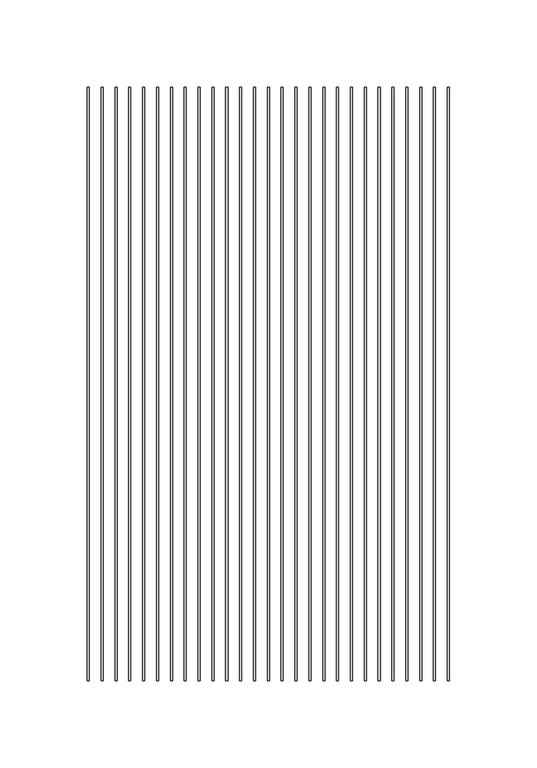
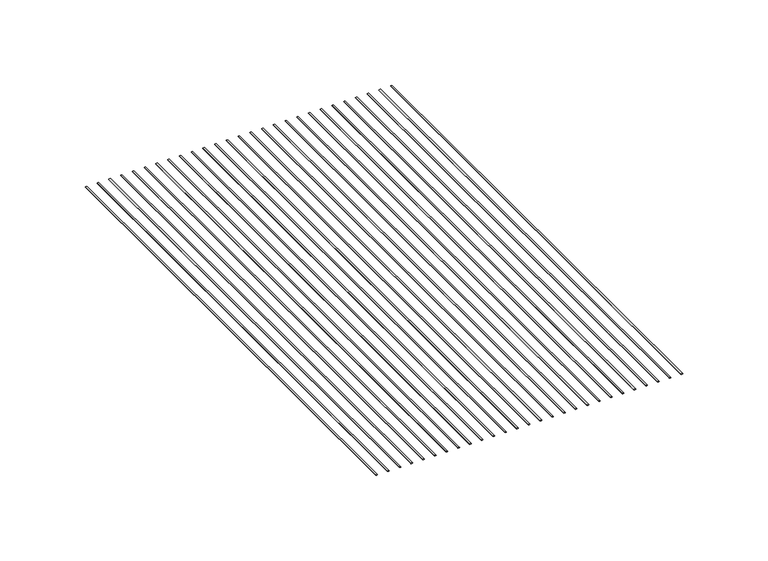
"""IFC4 building model written with IfcOpenShell, lengths in millimetres: proxy geometry, CRAi Generic Model Mesh Piece Face Based : Wider Mesh."""

from ifc_helpers import new_model, si_unit, point, frame, origin, place, context, project, spatial, ellipse_curve, trimmed, source, transform, mapped, element, save
from ifc_brep_helpers import plane_surface, extruded_surface, advanced_brep


def generic_models_7cb75a2d(model_context):
    return source(origin(), model_context, "Body", "AdvancedBrep", [
        advanced_brep(
        [(-228.4015625, -169.8625, -2.5796875), (-227.2109375, -169.8625, -2.5796875), (-228.4015625, 169.8625, -2.5796875), (-227.2109375, 169.8625, -2.5796875)],
        [
            (0, 1, ellipse_curve(frame((-227.80625, -169.8625, -2.5796875), z_axis=(0.0, -1.0, 0.0), x_axis=(1.0, 0.0, 0.0)), 0.5953125, 0.1984375)),
            (1, 0, ellipse_curve(frame((-227.80625, -169.8625, -2.5796875), z_axis=(0.0, -1.0, 0.0), x_axis=(1.0, 0.0, 0.0)), 0.5953125, 0.1984375)),
            (2, 3, ellipse_curve(frame((-227.80625, 169.8625, -2.5796875), z_axis=(0.0, 1.0, 0.0), x_axis=(1.0, 0.0, 0.0)), 0.5953125, 0.1984375)),
            (3, 2, ellipse_curve(frame((-227.80625, 169.8625, -2.5796875), z_axis=(0.0, 1.0, 0.0), x_axis=(1.0, 0.0, 0.0)), 0.5953125, 0.1984375)),
            (0, 2),
            (3, 1),
        ],
        [
            plane_surface(frame((-227.80625, -169.8625, -2.5796875), z_axis=(0.0, -1.0, 0.0), x_axis=(0.0, 0.0, 1.0))),
            plane_surface(frame((-227.80625, 169.8625, -2.5796875), z_axis=(0.0, 1.0, 0.0), x_axis=(0.0, 0.0, 1.0))),
            extruded_surface(trimmed(ellipse_curve(frame((-227.80625, 169.8625, -2.5796875), z_axis=(0.0, -1.0, 0.0), x_axis=(1.0, 0.0, 0.0)), 0.5953125, 0.1984375), [point((-228.4015625, 169.8625, -2.5796875))], [point((-227.2109375, 169.8625, -2.5796875))], True, "CARTESIAN"), (0.0, -339.725, 0.0), 339.725),
            extruded_surface(trimmed(ellipse_curve(frame((-227.80625, 169.8625, -2.5796875), z_axis=(0.0, -1.0, 0.0), x_axis=(1.0, 0.0, 0.0)), 0.5953125, 0.1984375), [point((-227.2109375, 169.8625, -2.5796875))], [point((-228.4015625, 169.8625, -2.5796875))], True, "CARTESIAN"), (0.0, -339.725, 0.0), 339.725),
        ],
        [
            (0, [[1, 2]]),
            (1, [[3, 4]]),
            (2, [[-1, 5, -4, 6]]),
            (3, [[-2, -6, -3, -5]]),
        ],
    ),
        advanced_brep(
        [(-220.4640625, -169.8625, -2.5796875), (-219.2734375, -169.8625, -2.5796875), (-220.4640625, 169.8625, -2.5796875), (-219.2734375, 169.8625, -2.5796875)],
        [
            (0, 1, ellipse_curve(frame((-219.86875, -169.8625, -2.5796875), z_axis=(0.0, -1.0, 0.0), x_axis=(1.0, 0.0, 0.0)), 0.5953125, 0.1984375)),
            (1, 0, ellipse_curve(frame((-219.86875, -169.8625, -2.5796875), z_axis=(0.0, -1.0, 0.0), x_axis=(1.0, 0.0, 0.0)), 0.5953125, 0.1984375)),
            (2, 3, ellipse_curve(frame((-219.86875, 169.8625, -2.5796875), z_axis=(0.0, 1.0, 0.0), x_axis=(1.0, 0.0, 0.0)), 0.5953125, 0.1984375)),
            (3, 2, ellipse_curve(frame((-219.86875, 169.8625, -2.5796875), z_axis=(0.0, 1.0, 0.0), x_axis=(1.0, 0.0, 0.0)), 0.5953125, 0.1984375)),
            (0, 2),
            (3, 1),
        ],
        [
            plane_surface(frame((-219.86875, -169.8625, -2.5796875), z_axis=(0.0, -1.0, 0.0), x_axis=(0.0, 0.0, 1.0))),
            plane_surface(frame((-219.86875, 169.8625, -2.5796875), z_axis=(0.0, 1.0, 0.0), x_axis=(0.0, 0.0, 1.0))),
            extruded_surface(trimmed(ellipse_curve(frame((-219.86875, 169.8625, -2.5796875), z_axis=(0.0, -1.0, 0.0), x_axis=(1.0, 0.0, 0.0)), 0.5953125, 0.1984375), [point((-220.4640625, 169.8625, -2.5796875))], [point((-219.2734375, 169.8625, -2.5796875))], True, "CARTESIAN"), (0.0, -339.725, 0.0), 339.725),
            extruded_surface(trimmed(ellipse_curve(frame((-219.86875, 169.8625, -2.5796875), z_axis=(0.0, -1.0, 0.0), x_axis=(1.0, 0.0, 0.0)), 0.5953125, 0.1984375), [point((-219.2734375, 169.8625, -2.5796875))], [point((-220.4640625, 169.8625, -2.5796875))], True, "CARTESIAN"), (0.0, -339.725, 0.0), 339.725),
        ],
        [
            (0, [[1, 2]]),
            (1, [[3, 4]]),
            (2, [[-1, 5, -4, 6]]),
            (3, [[-2, -6, -3, -5]]),
        ],
    ),
        advanced_brep(
        [(-212.5265625, -169.8625, -2.5796875), (-211.3359375, -169.8625, -2.5796875), (-212.5265625, 169.8625, -2.5796875), (-211.3359375, 169.8625, -2.5796875)],
        [
            (0, 1, ellipse_curve(frame((-211.93125, -169.8625, -2.5796875), z_axis=(0.0, -1.0, 0.0), x_axis=(1.0, 0.0, 0.0)), 0.5953125, 0.1984375)),
            (1, 0, ellipse_curve(frame((-211.93125, -169.8625, -2.5796875), z_axis=(0.0, -1.0, 0.0), x_axis=(1.0, 0.0, 0.0)), 0.5953125, 0.1984375)),
            (2, 3, ellipse_curve(frame((-211.93125, 169.8625, -2.5796875), z_axis=(0.0, 1.0, 0.0), x_axis=(1.0, 0.0, 0.0)), 0.5953125, 0.1984375)),
            (3, 2, ellipse_curve(frame((-211.93125, 169.8625, -2.5796875), z_axis=(0.0, 1.0, 0.0), x_axis=(1.0, 0.0, 0.0)), 0.5953125, 0.1984375)),
            (0, 2),
            (3, 1),
        ],
        [
            plane_surface(frame((-211.93125, -169.8625, -2.5796875), z_axis=(0.0, -1.0, 0.0), x_axis=(0.0, 0.0, 1.0))),
            plane_surface(frame((-211.93125, 169.8625, -2.5796875), z_axis=(0.0, 1.0, 0.0), x_axis=(0.0, 0.0, 1.0))),
            extruded_surface(trimmed(ellipse_curve(frame((-211.93125, 169.8625, -2.5796875), z_axis=(0.0, -1.0, 0.0), x_axis=(1.0, 0.0, 0.0)), 0.5953125, 0.1984375), [point((-212.5265625, 169.8625, -2.5796875))], [point((-211.3359375, 169.8625, -2.5796875))], True, "CARTESIAN"), (0.0, -339.725, 0.0), 339.725),
            extruded_surface(trimmed(ellipse_curve(frame((-211.93125, 169.8625, -2.5796875), z_axis=(0.0, -1.0, 0.0), x_axis=(1.0, 0.0, 0.0)), 0.5953125, 0.1984375), [point((-211.3359375, 169.8625, -2.5796875))], [point((-212.5265625, 169.8625, -2.5796875))], True, "CARTESIAN"), (0.0, -339.725, 0.0), 339.725),
        ],
        [
            (0, [[1, 2]]),
            (1, [[3, 4]]),
            (2, [[-1, 5, -4, 6]]),
            (3, [[-2, -6, -3, -5]]),
        ],
    ),
        advanced_brep(
        [(-204.5890625, -169.8625, -2.5796875), (-203.3984375, -169.8625, -2.5796875), (-204.5890625, 169.8625, -2.5796875), (-203.3984375, 169.8625, -2.5796875)],
        [
            (0, 1, ellipse_curve(frame((-203.99375, -169.8625, -2.5796875), z_axis=(0.0, -1.0, 0.0), x_axis=(1.0, 0.0, 0.0)), 0.5953125, 0.1984375)),
            (1, 0, ellipse_curve(frame((-203.99375, -169.8625, -2.5796875), z_axis=(0.0, -1.0, 0.0), x_axis=(1.0, 0.0, 0.0)), 0.5953125, 0.1984375)),
            (2, 3, ellipse_curve(frame((-203.99375, 169.8625, -2.5796875), z_axis=(0.0, 1.0, 0.0), x_axis=(1.0, 0.0, 0.0)), 0.5953125, 0.1984375)),
            (3, 2, ellipse_curve(frame((-203.99375, 169.8625, -2.5796875), z_axis=(0.0, 1.0, 0.0), x_axis=(1.0, 0.0, 0.0)), 0.5953125, 0.1984375)),
            (0, 2),
            (3, 1),
        ],
        [
            plane_surface(frame((-203.99375, -169.8625, -2.5796875), z_axis=(0.0, -1.0, 0.0), x_axis=(0.0, 0.0, 1.0))),
            plane_surface(frame((-203.99375, 169.8625, -2.5796875), z_axis=(0.0, 1.0, 0.0), x_axis=(0.0, 0.0, 1.0))),
            extruded_surface(trimmed(ellipse_curve(frame((-203.99375, 169.8625, -2.5796875), z_axis=(0.0, -1.0, 0.0), x_axis=(1.0, 0.0, 0.0)), 0.5953125, 0.1984375), [point((-204.5890625, 169.8625, -2.5796875))], [point((-203.3984375, 169.8625, -2.5796875))], True, "CARTESIAN"), (0.0, -339.725, 0.0), 339.725),
            extruded_surface(trimmed(ellipse_curve(frame((-203.99375, 169.8625, -2.5796875), z_axis=(0.0, -1.0, 0.0), x_axis=(1.0, 0.0, 0.0)), 0.5953125, 0.1984375), [point((-203.3984375, 169.8625, -2.5796875))], [point((-204.5890625, 169.8625, -2.5796875))], True, "CARTESIAN"), (0.0, -339.725, 0.0), 339.725),
        ],
        [
            (0, [[1, 2]]),
            (1, [[3, 4]]),
            (2, [[-1, 5, -4, 6]]),
            (3, [[-2, -6, -3, -5]]),
        ],
    ),
        advanced_brep(
        [(-196.6515625, -169.8625, -2.5796875), (-195.4609375, -169.8625, -2.5796875), (-196.6515625, 169.8625, -2.5796875), (-195.4609375, 169.8625, -2.5796875)],
        [
            (0, 1, ellipse_curve(frame((-196.05625, -169.8625, -2.5796875), z_axis=(0.0, -1.0, 0.0), x_axis=(1.0, 0.0, 0.0)), 0.5953125, 0.1984375)),
            (1, 0, ellipse_curve(frame((-196.05625, -169.8625, -2.5796875), z_axis=(0.0, -1.0, 0.0), x_axis=(1.0, 0.0, 0.0)), 0.5953125, 0.1984375)),
            (2, 3, ellipse_curve(frame((-196.05625, 169.8625, -2.5796875), z_axis=(0.0, 1.0, 0.0), x_axis=(1.0, 0.0, 0.0)), 0.5953125, 0.1984375)),
            (3, 2, ellipse_curve(frame((-196.05625, 169.8625, -2.5796875), z_axis=(0.0, 1.0, 0.0), x_axis=(1.0, 0.0, 0.0)), 0.5953125, 0.1984375)),
            (0, 2),
            (3, 1),
        ],
        [
            plane_surface(frame((-196.05625, -169.8625, -2.5796875), z_axis=(0.0, -1.0, 0.0), x_axis=(0.0, 0.0, 1.0))),
            plane_surface(frame((-196.05625, 169.8625, -2.5796875), z_axis=(0.0, 1.0, 0.0), x_axis=(0.0, 0.0, 1.0))),
            extruded_surface(trimmed(ellipse_curve(frame((-196.05625, 169.8625, -2.5796875), z_axis=(0.0, -1.0, 0.0), x_axis=(1.0, 0.0, 0.0)), 0.5953125, 0.1984375), [point((-196.6515625, 169.8625, -2.5796875))], [point((-195.4609375, 169.8625, -2.5796875))], True, "CARTESIAN"), (0.0, -339.725, 0.0), 339.725),
            extruded_surface(trimmed(ellipse_curve(frame((-196.05625, 169.8625, -2.5796875), z_axis=(0.0, -1.0, 0.0), x_axis=(1.0, 0.0, 0.0)), 0.5953125, 0.1984375), [point((-195.4609375, 169.8625, -2.5796875))], [point((-196.6515625, 169.8625, -2.5796875))], True, "CARTESIAN"), (0.0, -339.725, 0.0), 339.725),
        ],
        [
            (0, [[1, 2]]),
            (1, [[3, 4]]),
            (2, [[-1, 5, -4, 6]]),
            (3, [[-2, -6, -3, -5]]),
        ],
    ),
        advanced_brep(
        [(-188.7140625, -169.8625, -2.5796875), (-187.5234375, -169.8625, -2.5796875), (-188.7140625, 169.8625, -2.5796875), (-187.5234375, 169.8625, -2.5796875)],
        [
            (0, 1, ellipse_curve(frame((-188.11875, -169.8625, -2.5796875), z_axis=(0.0, -1.0, 0.0), x_axis=(1.0, 0.0, 0.0)), 0.5953125, 0.1984375)),
            (1, 0, ellipse_curve(frame((-188.11875, -169.8625, -2.5796875), z_axis=(0.0, -1.0, 0.0), x_axis=(1.0, 0.0, 0.0)), 0.5953125, 0.1984375)),
            (2, 3, ellipse_curve(frame((-188.11875, 169.8625, -2.5796875), z_axis=(0.0, 1.0, 0.0), x_axis=(1.0, 0.0, 0.0)), 0.5953125, 0.1984375)),
            (3, 2, ellipse_curve(frame((-188.11875, 169.8625, -2.5796875), z_axis=(0.0, 1.0, 0.0), x_axis=(1.0, 0.0, 0.0)), 0.5953125, 0.1984375)),
            (0, 2),
            (3, 1),
        ],
        [
            plane_surface(frame((-188.11875, -169.8625, -2.5796875), z_axis=(0.0, -1.0, 0.0), x_axis=(0.0, 0.0, 1.0))),
            plane_surface(frame((-188.11875, 169.8625, -2.5796875), z_axis=(0.0, 1.0, 0.0), x_axis=(0.0, 0.0, 1.0))),
            extruded_surface(trimmed(ellipse_curve(frame((-188.11875, 169.8625, -2.5796875), z_axis=(0.0, -1.0, 0.0), x_axis=(1.0, 0.0, 0.0)), 0.5953125, 0.1984375), [point((-188.7140625, 169.8625, -2.5796875))], [point((-187.5234375, 169.8625, -2.5796875))], True, "CARTESIAN"), (0.0, -339.725, 0.0), 339.725),
            extruded_surface(trimmed(ellipse_curve(frame((-188.11875, 169.8625, -2.5796875), z_axis=(0.0, -1.0, 0.0), x_axis=(1.0, 0.0, 0.0)), 0.5953125, 0.1984375), [point((-187.5234375, 169.8625, -2.5796875))], [point((-188.7140625, 169.8625, -2.5796875))], True, "CARTESIAN"), (0.0, -339.725, 0.0), 339.725),
        ],
        [
            (0, [[1, 2]]),
            (1, [[3, 4]]),
            (2, [[-1, 5, -4, 6]]),
            (3, [[-2, -6, -3, -5]]),
        ],
    ),
        advanced_brep(
        [(-180.7765625, -169.8625, -2.5796875), (-179.5859375, -169.8625, -2.5796875), (-180.7765625, 169.8625, -2.5796875), (-179.5859375, 169.8625, -2.5796875)],
        [
            (0, 1, ellipse_curve(frame((-180.18125, -169.8625, -2.5796875), z_axis=(0.0, -1.0, 0.0), x_axis=(1.0, 0.0, 0.0)), 0.5953125, 0.1984375)),
            (1, 0, ellipse_curve(frame((-180.18125, -169.8625, -2.5796875), z_axis=(0.0, -1.0, 0.0), x_axis=(1.0, 0.0, 0.0)), 0.5953125, 0.1984375)),
            (2, 3, ellipse_curve(frame((-180.18125, 169.8625, -2.5796875), z_axis=(0.0, 1.0, 0.0), x_axis=(1.0, 0.0, 0.0)), 0.5953125, 0.1984375)),
            (3, 2, ellipse_curve(frame((-180.18125, 169.8625, -2.5796875), z_axis=(0.0, 1.0, 0.0), x_axis=(1.0, 0.0, 0.0)), 0.5953125, 0.1984375)),
            (0, 2),
            (3, 1),
        ],
        [
            plane_surface(frame((-180.18125, -169.8625, -2.5796875), z_axis=(0.0, -1.0, 0.0), x_axis=(0.0, 0.0, 1.0))),
            plane_surface(frame((-180.18125, 169.8625, -2.5796875), z_axis=(0.0, 1.0, 0.0), x_axis=(0.0, 0.0, 1.0))),
            extruded_surface(trimmed(ellipse_curve(frame((-180.18125, 169.8625, -2.5796875), z_axis=(0.0, -1.0, 0.0), x_axis=(1.0, 0.0, 0.0)), 0.5953125, 0.1984375), [point((-180.7765625, 169.8625, -2.5796875))], [point((-179.5859375, 169.8625, -2.5796875))], True, "CARTESIAN"), (0.0, -339.725, 0.0), 339.725),
            extruded_surface(trimmed(ellipse_curve(frame((-180.18125, 169.8625, -2.5796875), z_axis=(0.0, -1.0, 0.0), x_axis=(1.0, 0.0, 0.0)), 0.5953125, 0.1984375), [point((-179.5859375, 169.8625, -2.5796875))], [point((-180.7765625, 169.8625, -2.5796875))], True, "CARTESIAN"), (0.0, -339.725, 0.0), 339.725),
        ],
        [
            (0, [[1, 2]]),
            (1, [[3, 4]]),
            (2, [[-1, 5, -4, 6]]),
            (3, [[-2, -6, -3, -5]]),
        ],
    ),
        advanced_brep(
        [(-172.8390625, -169.8625, -2.5796875), (-171.6484375, -169.8625, -2.5796875), (-172.8390625, 169.8625, -2.5796875), (-171.6484375, 169.8625, -2.5796875)],
        [
            (0, 1, ellipse_curve(frame((-172.24375, -169.8625, -2.5796875), z_axis=(0.0, -1.0, 0.0), x_axis=(1.0, 0.0, 0.0)), 0.5953125, 0.1984375)),
            (1, 0, ellipse_curve(frame((-172.24375, -169.8625, -2.5796875), z_axis=(0.0, -1.0, 0.0), x_axis=(1.0, 0.0, 0.0)), 0.5953125, 0.1984375)),
            (2, 3, ellipse_curve(frame((-172.24375, 169.8625, -2.5796875), z_axis=(0.0, 1.0, 0.0), x_axis=(1.0, 0.0, 0.0)), 0.5953125, 0.1984375)),
            (3, 2, ellipse_curve(frame((-172.24375, 169.8625, -2.5796875), z_axis=(0.0, 1.0, 0.0), x_axis=(1.0, 0.0, 0.0)), 0.5953125, 0.1984375)),
            (0, 2),
            (3, 1),
        ],
        [
            plane_surface(frame((-172.24375, -169.8625, -2.5796875), z_axis=(0.0, -1.0, 0.0), x_axis=(0.0, 0.0, 1.0))),
            plane_surface(frame((-172.24375, 169.8625, -2.5796875), z_axis=(0.0, 1.0, 0.0), x_axis=(0.0, 0.0, 1.0))),
            extruded_surface(trimmed(ellipse_curve(frame((-172.24375, 169.8625, -2.5796875), z_axis=(0.0, -1.0, 0.0), x_axis=(1.0, 0.0, 0.0)), 0.5953125, 0.1984375), [point((-172.8390625, 169.8625, -2.5796875))], [point((-171.6484375, 169.8625, -2.5796875))], True, "CARTESIAN"), (0.0, -339.725, 0.0), 339.725),
            extruded_surface(trimmed(ellipse_curve(frame((-172.24375, 169.8625, -2.5796875), z_axis=(0.0, -1.0, 0.0), x_axis=(1.0, 0.0, 0.0)), 0.5953125, 0.1984375), [point((-171.6484375, 169.8625, -2.5796875))], [point((-172.8390625, 169.8625, -2.5796875))], True, "CARTESIAN"), (0.0, -339.725, 0.0), 339.725),
        ],
        [
            (0, [[1, 2]]),
            (1, [[3, 4]]),
            (2, [[-1, 5, -4, 6]]),
            (3, [[-2, -6, -3, -5]]),
        ],
    ),
        advanced_brep(
        [(-164.9015625, -169.8625, -2.5796875), (-163.7109375, -169.8625, -2.5796875), (-164.9015625, 169.8625, -2.5796875), (-163.7109375, 169.8625, -2.5796875)],
        [
            (0, 1, ellipse_curve(frame((-164.30625, -169.8625, -2.5796875), z_axis=(0.0, -1.0, 0.0), x_axis=(1.0, 0.0, 0.0)), 0.5953125, 0.1984375)),
            (1, 0, ellipse_curve(frame((-164.30625, -169.8625, -2.5796875), z_axis=(0.0, -1.0, 0.0), x_axis=(1.0, 0.0, 0.0)), 0.5953125, 0.1984375)),
            (2, 3, ellipse_curve(frame((-164.30625, 169.8625, -2.5796875), z_axis=(0.0, 1.0, 0.0), x_axis=(1.0, 0.0, 0.0)), 0.5953125, 0.1984375)),
            (3, 2, ellipse_curve(frame((-164.30625, 169.8625, -2.5796875), z_axis=(0.0, 1.0, 0.0), x_axis=(1.0, 0.0, 0.0)), 0.5953125, 0.1984375)),
            (0, 2),
            (3, 1),
        ],
        [
            plane_surface(frame((-164.30625, -169.8625, -2.5796875), z_axis=(0.0, -1.0, 0.0), x_axis=(0.0, 0.0, 1.0))),
            plane_surface(frame((-164.30625, 169.8625, -2.5796875), z_axis=(0.0, 1.0, 0.0), x_axis=(0.0, 0.0, 1.0))),
            extruded_surface(trimmed(ellipse_curve(frame((-164.30625, 169.8625, -2.5796875), z_axis=(0.0, -1.0, 0.0), x_axis=(1.0, 0.0, 0.0)), 0.5953125, 0.1984375), [point((-164.9015625, 169.8625, -2.5796875))], [point((-163.7109375, 169.8625, -2.5796875))], True, "CARTESIAN"), (0.0, -339.725, 0.0), 339.725),
            extruded_surface(trimmed(ellipse_curve(frame((-164.30625, 169.8625, -2.5796875), z_axis=(0.0, -1.0, 0.0), x_axis=(1.0, 0.0, 0.0)), 0.5953125, 0.1984375), [point((-163.7109375, 169.8625, -2.5796875))], [point((-164.9015625, 169.8625, -2.5796875))], True, "CARTESIAN"), (0.0, -339.725, 0.0), 339.725),
        ],
        [
            (0, [[1, 2]]),
            (1, [[3, 4]]),
            (2, [[-1, 5, -4, 6]]),
            (3, [[-2, -6, -3, -5]]),
        ],
    ),
        advanced_brep(
        [(-156.9640625, -169.8625, -2.5796875), (-155.7734375, -169.8625, -2.5796875), (-156.9640625, 169.8625, -2.5796875), (-155.7734375, 169.8625, -2.5796875)],
        [
            (0, 1, ellipse_curve(frame((-156.36875, -169.8625, -2.5796875), z_axis=(0.0, -1.0, 0.0), x_axis=(1.0, 0.0, 0.0)), 0.5953125, 0.1984375)),
            (1, 0, ellipse_curve(frame((-156.36875, -169.8625, -2.5796875), z_axis=(0.0, -1.0, 0.0), x_axis=(1.0, 0.0, 0.0)), 0.5953125, 0.1984375)),
            (2, 3, ellipse_curve(frame((-156.36875, 169.8625, -2.5796875), z_axis=(0.0, 1.0, 0.0), x_axis=(1.0, 0.0, 0.0)), 0.5953125, 0.1984375)),
            (3, 2, ellipse_curve(frame((-156.36875, 169.8625, -2.5796875), z_axis=(0.0, 1.0, 0.0), x_axis=(1.0, 0.0, 0.0)), 0.5953125, 0.1984375)),
            (0, 2),
            (3, 1),
        ],
        [
            plane_surface(frame((-156.36875, -169.8625, -2.5796875), z_axis=(0.0, -1.0, 0.0), x_axis=(0.0, 0.0, 1.0))),
            plane_surface(frame((-156.36875, 169.8625, -2.5796875), z_axis=(0.0, 1.0, 0.0), x_axis=(0.0, 0.0, 1.0))),
            extruded_surface(trimmed(ellipse_curve(frame((-156.36875, 169.8625, -2.5796875), z_axis=(0.0, -1.0, 0.0), x_axis=(1.0, 0.0, 0.0)), 0.5953125, 0.1984375), [point((-156.9640625, 169.8625, -2.5796875))], [point((-155.7734375, 169.8625, -2.5796875))], True, "CARTESIAN"), (0.0, -339.725, 0.0), 339.725),
            extruded_surface(trimmed(ellipse_curve(frame((-156.36875, 169.8625, -2.5796875), z_axis=(0.0, -1.0, 0.0), x_axis=(1.0, 0.0, 0.0)), 0.5953125, 0.1984375), [point((-155.7734375, 169.8625, -2.5796875))], [point((-156.9640625, 169.8625, -2.5796875))], True, "CARTESIAN"), (0.0, -339.725, 0.0), 339.725),
        ],
        [
            (0, [[1, 2]]),
            (1, [[3, 4]]),
            (2, [[-1, 5, -4, 6]]),
            (3, [[-2, -6, -3, -5]]),
        ],
    ),
        advanced_brep(
        [(-149.0265625, -169.8625, -2.5796875), (-147.8359375, -169.8625, -2.5796875), (-149.0265625, 169.8625, -2.5796875), (-147.8359375, 169.8625, -2.5796875)],
        [
            (0, 1, ellipse_curve(frame((-148.43125, -169.8625, -2.5796875), z_axis=(0.0, -1.0, 0.0), x_axis=(1.0, 0.0, 0.0)), 0.5953125, 0.1984375)),
            (1, 0, ellipse_curve(frame((-148.43125, -169.8625, -2.5796875), z_axis=(0.0, -1.0, 0.0), x_axis=(1.0, 0.0, 0.0)), 0.5953125, 0.1984375)),
            (2, 3, ellipse_curve(frame((-148.43125, 169.8625, -2.5796875), z_axis=(0.0, 1.0, 0.0), x_axis=(1.0, 0.0, 0.0)), 0.5953125, 0.1984375)),
            (3, 2, ellipse_curve(frame((-148.43125, 169.8625, -2.5796875), z_axis=(0.0, 1.0, 0.0), x_axis=(1.0, 0.0, 0.0)), 0.5953125, 0.1984375)),
            (0, 2),
            (3, 1),
        ],
        [
            plane_surface(frame((-148.43125, -169.8625, -2.5796875), z_axis=(0.0, -1.0, 0.0), x_axis=(0.0, 0.0, 1.0))),
            plane_surface(frame((-148.43125, 169.8625, -2.5796875), z_axis=(0.0, 1.0, 0.0), x_axis=(0.0, 0.0, 1.0))),
            extruded_surface(trimmed(ellipse_curve(frame((-148.43125, 169.8625, -2.5796875), z_axis=(0.0, -1.0, 0.0), x_axis=(1.0, 0.0, 0.0)), 0.5953125, 0.1984375), [point((-149.0265625, 169.8625, -2.5796875))], [point((-147.8359375, 169.8625, -2.5796875))], True, "CARTESIAN"), (0.0, -339.725, 0.0), 339.725),
            extruded_surface(trimmed(ellipse_curve(frame((-148.43125, 169.8625, -2.5796875), z_axis=(0.0, -1.0, 0.0), x_axis=(1.0, 0.0, 0.0)), 0.5953125, 0.1984375), [point((-147.8359375, 169.8625, -2.5796875))], [point((-149.0265625, 169.8625, -2.5796875))], True, "CARTESIAN"), (0.0, -339.725, 0.0), 339.725),
        ],
        [
            (0, [[1, 2]]),
            (1, [[3, 4]]),
            (2, [[-1, 5, -4, 6]]),
            (3, [[-2, -6, -3, -5]]),
        ],
    ),
        advanced_brep(
        [(-141.0890625, -169.8625, -2.5796875), (-139.8984375, -169.8625, -2.5796875), (-141.0890625, 169.8625, -2.5796875), (-139.8984375, 169.8625, -2.5796875)],
        [
            (0, 1, ellipse_curve(frame((-140.49375, -169.8625, -2.5796875), z_axis=(0.0, -1.0, 0.0), x_axis=(1.0, 0.0, 0.0)), 0.5953125, 0.1984375)),
            (1, 0, ellipse_curve(frame((-140.49375, -169.8625, -2.5796875), z_axis=(0.0, -1.0, 0.0), x_axis=(1.0, 0.0, 0.0)), 0.5953125, 0.1984375)),
            (2, 3, ellipse_curve(frame((-140.49375, 169.8625, -2.5796875), z_axis=(0.0, 1.0, 0.0), x_axis=(1.0, 0.0, 0.0)), 0.5953125, 0.1984375)),
            (3, 2, ellipse_curve(frame((-140.49375, 169.8625, -2.5796875), z_axis=(0.0, 1.0, 0.0), x_axis=(1.0, 0.0, 0.0)), 0.5953125, 0.1984375)),
            (0, 2),
            (3, 1),
        ],
        [
            plane_surface(frame((-140.49375, -169.8625, -2.5796875), z_axis=(0.0, -1.0, 0.0), x_axis=(0.0, 0.0, 1.0))),
            plane_surface(frame((-140.49375, 169.8625, -2.5796875), z_axis=(0.0, 1.0, 0.0), x_axis=(0.0, 0.0, 1.0))),
            extruded_surface(trimmed(ellipse_curve(frame((-140.49375, 169.8625, -2.5796875), z_axis=(0.0, -1.0, 0.0), x_axis=(1.0, 0.0, 0.0)), 0.5953125, 0.1984375), [point((-141.0890625, 169.8625, -2.5796875))], [point((-139.8984375, 169.8625, -2.5796875))], True, "CARTESIAN"), (0.0, -339.725, 0.0), 339.725),
            extruded_surface(trimmed(ellipse_curve(frame((-140.49375, 169.8625, -2.5796875), z_axis=(0.0, -1.0, 0.0), x_axis=(1.0, 0.0, 0.0)), 0.5953125, 0.1984375), [point((-139.8984375, 169.8625, -2.5796875))], [point((-141.0890625, 169.8625, -2.5796875))], True, "CARTESIAN"), (0.0, -339.725, 0.0), 339.725),
        ],
        [
            (0, [[1, 2]]),
            (1, [[3, 4]]),
            (2, [[-1, 5, -4, 6]]),
            (3, [[-2, -6, -3, -5]]),
        ],
    ),
        advanced_brep(
        [(-133.1515625, -169.8625, -2.5796875), (-131.9609375, -169.8625, -2.5796875), (-133.1515625, 169.8625, -2.5796875), (-131.9609375, 169.8625, -2.5796875)],
        [
            (0, 1, ellipse_curve(frame((-132.55625, -169.8625, -2.5796875), z_axis=(0.0, -1.0, 0.0), x_axis=(1.0, 0.0, 0.0)), 0.5953125, 0.1984375)),
            (1, 0, ellipse_curve(frame((-132.55625, -169.8625, -2.5796875), z_axis=(0.0, -1.0, 0.0), x_axis=(1.0, 0.0, 0.0)), 0.5953125, 0.1984375)),
            (2, 3, ellipse_curve(frame((-132.55625, 169.8625, -2.5796875), z_axis=(0.0, 1.0, 0.0), x_axis=(1.0, 0.0, 0.0)), 0.5953125, 0.1984375)),
            (3, 2, ellipse_curve(frame((-132.55625, 169.8625, -2.5796875), z_axis=(0.0, 1.0, 0.0), x_axis=(1.0, 0.0, 0.0)), 0.5953125, 0.1984375)),
            (0, 2),
            (3, 1),
        ],
        [
            plane_surface(frame((-132.55625, -169.8625, -2.5796875), z_axis=(0.0, -1.0, 0.0), x_axis=(0.0, 0.0, 1.0))),
            plane_surface(frame((-132.55625, 169.8625, -2.5796875), z_axis=(0.0, 1.0, 0.0), x_axis=(0.0, 0.0, 1.0))),
            extruded_surface(trimmed(ellipse_curve(frame((-132.55625, 169.8625, -2.5796875), z_axis=(0.0, -1.0, 0.0), x_axis=(1.0, 0.0, 0.0)), 0.5953125, 0.1984375), [point((-133.1515625, 169.8625, -2.5796875))], [point((-131.9609375, 169.8625, -2.5796875))], True, "CARTESIAN"), (0.0, -339.725, 0.0), 339.725),
            extruded_surface(trimmed(ellipse_curve(frame((-132.55625, 169.8625, -2.5796875), z_axis=(0.0, -1.0, 0.0), x_axis=(1.0, 0.0, 0.0)), 0.5953125, 0.1984375), [point((-131.9609375, 169.8625, -2.5796875))], [point((-133.1515625, 169.8625, -2.5796875))], True, "CARTESIAN"), (0.0, -339.725, 0.0), 339.725),
        ],
        [
            (0, [[1, 2]]),
            (1, [[3, 4]]),
            (2, [[-1, 5, -4, 6]]),
            (3, [[-2, -6, -3, -5]]),
        ],
    ),
        advanced_brep(
        [(-125.2140625, -169.8625, -2.5796875), (-124.0234375, -169.8625, -2.5796875), (-125.2140625, 169.8625, -2.5796875), (-124.0234375, 169.8625, -2.5796875)],
        [
            (0, 1, ellipse_curve(frame((-124.61875, -169.8625, -2.5796875), z_axis=(0.0, -1.0, 0.0), x_axis=(1.0, 0.0, 0.0)), 0.5953125, 0.1984375)),
            (1, 0, ellipse_curve(frame((-124.61875, -169.8625, -2.5796875), z_axis=(0.0, -1.0, 0.0), x_axis=(1.0, 0.0, 0.0)), 0.5953125, 0.1984375)),
            (2, 3, ellipse_curve(frame((-124.61875, 169.8625, -2.5796875), z_axis=(0.0, 1.0, 0.0), x_axis=(1.0, 0.0, 0.0)), 0.5953125, 0.1984375)),
            (3, 2, ellipse_curve(frame((-124.61875, 169.8625, -2.5796875), z_axis=(0.0, 1.0, 0.0), x_axis=(1.0, 0.0, 0.0)), 0.5953125, 0.1984375)),
            (0, 2),
            (3, 1),
        ],
        [
            plane_surface(frame((-124.61875, -169.8625, -2.5796875), z_axis=(0.0, -1.0, 0.0), x_axis=(0.0, 0.0, 1.0))),
            plane_surface(frame((-124.61875, 169.8625, -2.5796875), z_axis=(0.0, 1.0, 0.0), x_axis=(0.0, 0.0, 1.0))),
            extruded_surface(trimmed(ellipse_curve(frame((-124.61875, 169.8625, -2.5796875), z_axis=(0.0, -1.0, 0.0), x_axis=(1.0, 0.0, 0.0)), 0.5953125, 0.1984375), [point((-125.2140625, 169.8625, -2.5796875))], [point((-124.0234375, 169.8625, -2.5796875))], True, "CARTESIAN"), (0.0, -339.725, 0.0), 339.725),
            extruded_surface(trimmed(ellipse_curve(frame((-124.61875, 169.8625, -2.5796875), z_axis=(0.0, -1.0, 0.0), x_axis=(1.0, 0.0, 0.0)), 0.5953125, 0.1984375), [point((-124.0234375, 169.8625, -2.5796875))], [point((-125.2140625, 169.8625, -2.5796875))], True, "CARTESIAN"), (0.0, -339.725, 0.0), 339.725),
        ],
        [
            (0, [[1, 2]]),
            (1, [[3, 4]]),
            (2, [[-1, 5, -4, 6]]),
            (3, [[-2, -6, -3, -5]]),
        ],
    ),
        advanced_brep(
        [(-117.2765625, -169.8625, -2.5796875), (-116.0859375, -169.8625, -2.5796875), (-117.2765625, 169.8625, -2.5796875), (-116.0859375, 169.8625, -2.5796875)],
        [
            (0, 1, ellipse_curve(frame((-116.68125, -169.8625, -2.5796875), z_axis=(0.0, -1.0, 0.0), x_axis=(1.0, 0.0, 0.0)), 0.5953125, 0.1984375)),
            (1, 0, ellipse_curve(frame((-116.68125, -169.8625, -2.5796875), z_axis=(0.0, -1.0, 0.0), x_axis=(1.0, 0.0, 0.0)), 0.5953125, 0.1984375)),
            (2, 3, ellipse_curve(frame((-116.68125, 169.8625, -2.5796875), z_axis=(0.0, 1.0, 0.0), x_axis=(1.0, 0.0, 0.0)), 0.5953125, 0.1984375)),
            (3, 2, ellipse_curve(frame((-116.68125, 169.8625, -2.5796875), z_axis=(0.0, 1.0, 0.0), x_axis=(1.0, 0.0, 0.0)), 0.5953125, 0.1984375)),
            (0, 2),
            (3, 1),
        ],
        [
            plane_surface(frame((-116.68125, -169.8625, -2.5796875), z_axis=(0.0, -1.0, 0.0), x_axis=(0.0, 0.0, 1.0))),
            plane_surface(frame((-116.68125, 169.8625, -2.5796875), z_axis=(0.0, 1.0, 0.0), x_axis=(0.0, 0.0, 1.0))),
            extruded_surface(trimmed(ellipse_curve(frame((-116.68125, 169.8625, -2.5796875), z_axis=(0.0, -1.0, 0.0), x_axis=(1.0, 0.0, 0.0)), 0.5953125, 0.1984375), [point((-117.2765625, 169.8625, -2.5796875))], [point((-116.0859375, 169.8625, -2.5796875))], True, "CARTESIAN"), (0.0, -339.725, 0.0), 339.725),
            extruded_surface(trimmed(ellipse_curve(frame((-116.68125, 169.8625, -2.5796875), z_axis=(0.0, -1.0, 0.0), x_axis=(1.0, 0.0, 0.0)), 0.5953125, 0.1984375), [point((-116.0859375, 169.8625, -2.5796875))], [point((-117.2765625, 169.8625, -2.5796875))], True, "CARTESIAN"), (0.0, -339.725, 0.0), 339.725),
        ],
        [
            (0, [[1, 2]]),
            (1, [[3, 4]]),
            (2, [[-1, 5, -4, 6]]),
            (3, [[-2, -6, -3, -5]]),
        ],
    ),
        advanced_brep(
        [(-109.3390625, -169.8625, -2.5796875), (-108.1484375, -169.8625, -2.5796875), (-109.3390625, 169.8625, -2.5796875), (-108.1484375, 169.8625, -2.5796875)],
        [
            (0, 1, ellipse_curve(frame((-108.74375, -169.8625, -2.5796875), z_axis=(0.0, -1.0, 0.0), x_axis=(1.0, 0.0, 0.0)), 0.5953125, 0.1984375)),
            (1, 0, ellipse_curve(frame((-108.74375, -169.8625, -2.5796875), z_axis=(0.0, -1.0, 0.0), x_axis=(1.0, 0.0, 0.0)), 0.5953125, 0.1984375)),
            (2, 3, ellipse_curve(frame((-108.74375, 169.8625, -2.5796875), z_axis=(0.0, 1.0, 0.0), x_axis=(1.0, 0.0, 0.0)), 0.5953125, 0.1984375)),
            (3, 2, ellipse_curve(frame((-108.74375, 169.8625, -2.5796875), z_axis=(0.0, 1.0, 0.0), x_axis=(1.0, 0.0, 0.0)), 0.5953125, 0.1984375)),
            (0, 2),
            (3, 1),
        ],
        [
            plane_surface(frame((-108.74375, -169.8625, -2.5796875), z_axis=(0.0, -1.0, 0.0), x_axis=(0.0, 0.0, 1.0))),
            plane_surface(frame((-108.74375, 169.8625, -2.5796875), z_axis=(0.0, 1.0, 0.0), x_axis=(0.0, 0.0, 1.0))),
            extruded_surface(trimmed(ellipse_curve(frame((-108.74375, 169.8625, -2.5796875), z_axis=(0.0, -1.0, 0.0), x_axis=(1.0, 0.0, 0.0)), 0.5953125, 0.1984375), [point((-109.3390625, 169.8625, -2.5796875))], [point((-108.1484375, 169.8625, -2.5796875))], True, "CARTESIAN"), (0.0, -339.725, 0.0), 339.725),
            extruded_surface(trimmed(ellipse_curve(frame((-108.74375, 169.8625, -2.5796875), z_axis=(0.0, -1.0, 0.0), x_axis=(1.0, 0.0, 0.0)), 0.5953125, 0.1984375), [point((-108.1484375, 169.8625, -2.5796875))], [point((-109.3390625, 169.8625, -2.5796875))], True, "CARTESIAN"), (0.0, -339.725, 0.0), 339.725),
        ],
        [
            (0, [[1, 2]]),
            (1, [[3, 4]]),
            (2, [[-1, 5, -4, 6]]),
            (3, [[-2, -6, -3, -5]]),
        ],
    ),
        advanced_brep(
        [(-101.4015625, -169.8625, -2.5796875), (-100.2109375, -169.8625, -2.5796875), (-101.4015625, 169.8625, -2.5796875), (-100.2109375, 169.8625, -2.5796875)],
        [
            (0, 1, ellipse_curve(frame((-100.80625, -169.8625, -2.5796875), z_axis=(0.0, -1.0, 0.0), x_axis=(1.0, 0.0, 0.0)), 0.5953125, 0.1984375)),
            (1, 0, ellipse_curve(frame((-100.80625, -169.8625, -2.5796875), z_axis=(0.0, -1.0, 0.0), x_axis=(1.0, 0.0, 0.0)), 0.5953125, 0.1984375)),
            (2, 3, ellipse_curve(frame((-100.80625, 169.8625, -2.5796875), z_axis=(0.0, 1.0, 0.0), x_axis=(1.0, 0.0, 0.0)), 0.5953125, 0.1984375)),
            (3, 2, ellipse_curve(frame((-100.80625, 169.8625, -2.5796875), z_axis=(0.0, 1.0, 0.0), x_axis=(1.0, 0.0, 0.0)), 0.5953125, 0.1984375)),
            (0, 2),
            (3, 1),
        ],
        [
            plane_surface(frame((-100.80625, -169.8625, -2.5796875), z_axis=(0.0, -1.0, 0.0), x_axis=(0.0, 0.0, 1.0))),
            plane_surface(frame((-100.80625, 169.8625, -2.5796875), z_axis=(0.0, 1.0, 0.0), x_axis=(0.0, 0.0, 1.0))),
            extruded_surface(trimmed(ellipse_curve(frame((-100.80625, 169.8625, -2.5796875), z_axis=(0.0, -1.0, 0.0), x_axis=(1.0, 0.0, 0.0)), 0.5953125, 0.1984375), [point((-101.4015625, 169.8625, -2.5796875))], [point((-100.2109375, 169.8625, -2.5796875))], True, "CARTESIAN"), (0.0, -339.725, 0.0), 339.725),
            extruded_surface(trimmed(ellipse_curve(frame((-100.80625, 169.8625, -2.5796875), z_axis=(0.0, -1.0, 0.0), x_axis=(1.0, 0.0, 0.0)), 0.5953125, 0.1984375), [point((-100.2109375, 169.8625, -2.5796875))], [point((-101.4015625, 169.8625, -2.5796875))], True, "CARTESIAN"), (0.0, -339.725, 0.0), 339.725),
        ],
        [
            (0, [[1, 2]]),
            (1, [[3, 4]]),
            (2, [[-1, 5, -4, 6]]),
            (3, [[-2, -6, -3, -5]]),
        ],
    ),
        advanced_brep(
        [(-93.4640625, -169.8625, -2.5796875), (-92.2734375, -169.8625, -2.5796875), (-93.4640625, 169.8625, -2.5796875), (-92.2734375, 169.8625, -2.5796875)],
        [
            (0, 1, ellipse_curve(frame((-92.86875, -169.8625, -2.5796875), z_axis=(0.0, -1.0, 0.0), x_axis=(1.0, 0.0, 0.0)), 0.5953125, 0.1984375)),
            (1, 0, ellipse_curve(frame((-92.86875, -169.8625, -2.5796875), z_axis=(0.0, -1.0, 0.0), x_axis=(1.0, 0.0, 0.0)), 0.5953125, 0.1984375)),
            (2, 3, ellipse_curve(frame((-92.86875, 169.8625, -2.5796875), z_axis=(0.0, 1.0, 0.0), x_axis=(1.0, 0.0, 0.0)), 0.5953125, 0.1984375)),
            (3, 2, ellipse_curve(frame((-92.86875, 169.8625, -2.5796875), z_axis=(0.0, 1.0, 0.0), x_axis=(1.0, 0.0, 0.0)), 0.5953125, 0.1984375)),
            (0, 2),
            (3, 1),
        ],
        [
            plane_surface(frame((-92.86875, -169.8625, -2.5796875), z_axis=(0.0, -1.0, 0.0), x_axis=(0.0, 0.0, 1.0))),
            plane_surface(frame((-92.86875, 169.8625, -2.5796875), z_axis=(0.0, 1.0, 0.0), x_axis=(0.0, 0.0, 1.0))),
            extruded_surface(trimmed(ellipse_curve(frame((-92.86875, 169.8625, -2.5796875), z_axis=(0.0, -1.0, 0.0), x_axis=(1.0, 0.0, 0.0)), 0.5953125, 0.1984375), [point((-93.4640625, 169.8625, -2.5796875))], [point((-92.2734375, 169.8625, -2.5796875))], True, "CARTESIAN"), (0.0, -339.725, 0.0), 339.725),
            extruded_surface(trimmed(ellipse_curve(frame((-92.86875, 169.8625, -2.5796875), z_axis=(0.0, -1.0, 0.0), x_axis=(1.0, 0.0, 0.0)), 0.5953125, 0.1984375), [point((-92.2734375, 169.8625, -2.5796875))], [point((-93.4640625, 169.8625, -2.5796875))], True, "CARTESIAN"), (0.0, -339.725, 0.0), 339.725),
        ],
        [
            (0, [[1, 2]]),
            (1, [[3, 4]]),
            (2, [[-1, 5, -4, 6]]),
            (3, [[-2, -6, -3, -5]]),
        ],
    ),
        advanced_brep(
        [(-85.5265625, -169.8625, -2.5796875), (-84.3359375, -169.8625, -2.5796875), (-85.5265625, 169.8625, -2.5796875), (-84.3359375, 169.8625, -2.5796875)],
        [
            (0, 1, ellipse_curve(frame((-84.93125, -169.8625, -2.5796875), z_axis=(0.0, -1.0, 0.0), x_axis=(1.0, 0.0, 0.0)), 0.5953125, 0.1984375)),
            (1, 0, ellipse_curve(frame((-84.93125, -169.8625, -2.5796875), z_axis=(0.0, -1.0, 0.0), x_axis=(1.0, 0.0, 0.0)), 0.5953125, 0.1984375)),
            (2, 3, ellipse_curve(frame((-84.93125, 169.8625, -2.5796875), z_axis=(0.0, 1.0, 0.0), x_axis=(1.0, 0.0, 0.0)), 0.5953125, 0.1984375)),
            (3, 2, ellipse_curve(frame((-84.93125, 169.8625, -2.5796875), z_axis=(0.0, 1.0, 0.0), x_axis=(1.0, 0.0, 0.0)), 0.5953125, 0.1984375)),
            (0, 2),
            (3, 1),
        ],
        [
            plane_surface(frame((-84.93125, -169.8625, -2.5796875), z_axis=(0.0, -1.0, 0.0), x_axis=(0.0, 0.0, 1.0))),
            plane_surface(frame((-84.93125, 169.8625, -2.5796875), z_axis=(0.0, 1.0, 0.0), x_axis=(0.0, 0.0, 1.0))),
            extruded_surface(trimmed(ellipse_curve(frame((-84.93125, 169.8625, -2.5796875), z_axis=(0.0, -1.0, 0.0), x_axis=(1.0, 0.0, 0.0)), 0.5953125, 0.1984375), [point((-85.5265625, 169.8625, -2.5796875))], [point((-84.3359375, 169.8625, -2.5796875))], True, "CARTESIAN"), (0.0, -339.725, 0.0), 339.725),
            extruded_surface(trimmed(ellipse_curve(frame((-84.93125, 169.8625, -2.5796875), z_axis=(0.0, -1.0, 0.0), x_axis=(1.0, 0.0, 0.0)), 0.5953125, 0.1984375), [point((-84.3359375, 169.8625, -2.5796875))], [point((-85.5265625, 169.8625, -2.5796875))], True, "CARTESIAN"), (0.0, -339.725, 0.0), 339.725),
        ],
        [
            (0, [[1, 2]]),
            (1, [[3, 4]]),
            (2, [[-1, 5, -4, 6]]),
            (3, [[-2, -6, -3, -5]]),
        ],
    ),
        advanced_brep(
        [(-77.5890625, -169.8625, -2.5796875), (-76.3984375, -169.8625, -2.5796875), (-77.5890625, 169.8625, -2.5796875), (-76.3984375, 169.8625, -2.5796875)],
        [
            (0, 1, ellipse_curve(frame((-76.99375, -169.8625, -2.5796875), z_axis=(0.0, -1.0, 0.0), x_axis=(1.0, 0.0, 0.0)), 0.5953125, 0.1984375)),
            (1, 0, ellipse_curve(frame((-76.99375, -169.8625, -2.5796875), z_axis=(0.0, -1.0, 0.0), x_axis=(1.0, 0.0, 0.0)), 0.5953125, 0.1984375)),
            (2, 3, ellipse_curve(frame((-76.99375, 169.8625, -2.5796875), z_axis=(0.0, 1.0, 0.0), x_axis=(1.0, 0.0, 0.0)), 0.5953125, 0.1984375)),
            (3, 2, ellipse_curve(frame((-76.99375, 169.8625, -2.5796875), z_axis=(0.0, 1.0, 0.0), x_axis=(1.0, 0.0, 0.0)), 0.5953125, 0.1984375)),
            (0, 2),
            (3, 1),
        ],
        [
            plane_surface(frame((-76.99375, -169.8625, -2.5796875), z_axis=(0.0, -1.0, 0.0), x_axis=(0.0, 0.0, 1.0))),
            plane_surface(frame((-76.99375, 169.8625, -2.5796875), z_axis=(0.0, 1.0, 0.0), x_axis=(0.0, 0.0, 1.0))),
            extruded_surface(trimmed(ellipse_curve(frame((-76.99375, 169.8625, -2.5796875), z_axis=(0.0, -1.0, 0.0), x_axis=(1.0, 0.0, 0.0)), 0.5953125, 0.1984375), [point((-77.5890625, 169.8625, -2.5796875))], [point((-76.3984375, 169.8625, -2.5796875))], True, "CARTESIAN"), (0.0, -339.725, 0.0), 339.725),
            extruded_surface(trimmed(ellipse_curve(frame((-76.99375, 169.8625, -2.5796875), z_axis=(0.0, -1.0, 0.0), x_axis=(1.0, 0.0, 0.0)), 0.5953125, 0.1984375), [point((-76.3984375, 169.8625, -2.5796875))], [point((-77.5890625, 169.8625, -2.5796875))], True, "CARTESIAN"), (0.0, -339.725, 0.0), 339.725),
        ],
        [
            (0, [[1, 2]]),
            (1, [[3, 4]]),
            (2, [[-1, 5, -4, 6]]),
            (3, [[-2, -6, -3, -5]]),
        ],
    ),
        advanced_brep(
        [(-69.6515625, -169.8625, -2.5796875), (-68.4609375, -169.8625, -2.5796875), (-69.6515625, 169.8625, -2.5796875), (-68.4609375, 169.8625, -2.5796875)],
        [
            (0, 1, ellipse_curve(frame((-69.05625, -169.8625, -2.5796875), z_axis=(0.0, -1.0, 0.0), x_axis=(1.0, 0.0, 0.0)), 0.5953125, 0.1984375)),
            (1, 0, ellipse_curve(frame((-69.05625, -169.8625, -2.5796875), z_axis=(0.0, -1.0, 0.0), x_axis=(1.0, 0.0, 0.0)), 0.5953125, 0.1984375)),
            (2, 3, ellipse_curve(frame((-69.05625, 169.8625, -2.5796875), z_axis=(0.0, 1.0, 0.0), x_axis=(1.0, 0.0, 0.0)), 0.5953125, 0.1984375)),
            (3, 2, ellipse_curve(frame((-69.05625, 169.8625, -2.5796875), z_axis=(0.0, 1.0, 0.0), x_axis=(1.0, 0.0, 0.0)), 0.5953125, 0.1984375)),
            (0, 2),
            (3, 1),
        ],
        [
            plane_surface(frame((-69.05625, -169.8625, -2.5796875), z_axis=(0.0, -1.0, 0.0), x_axis=(0.0, 0.0, 1.0))),
            plane_surface(frame((-69.05625, 169.8625, -2.5796875), z_axis=(0.0, 1.0, 0.0), x_axis=(0.0, 0.0, 1.0))),
            extruded_surface(trimmed(ellipse_curve(frame((-69.05625, 169.8625, -2.5796875), z_axis=(0.0, -1.0, 0.0), x_axis=(1.0, 0.0, 0.0)), 0.5953125, 0.1984375), [point((-69.6515625, 169.8625, -2.5796875))], [point((-68.4609375, 169.8625, -2.5796875))], True, "CARTESIAN"), (0.0, -339.725, 0.0), 339.725),
            extruded_surface(trimmed(ellipse_curve(frame((-69.05625, 169.8625, -2.5796875), z_axis=(0.0, -1.0, 0.0), x_axis=(1.0, 0.0, 0.0)), 0.5953125, 0.1984375), [point((-68.4609375, 169.8625, -2.5796875))], [point((-69.6515625, 169.8625, -2.5796875))], True, "CARTESIAN"), (0.0, -339.725, 0.0), 339.725),
        ],
        [
            (0, [[1, 2]]),
            (1, [[3, 4]]),
            (2, [[-1, 5, -4, 6]]),
            (3, [[-2, -6, -3, -5]]),
        ],
    ),
        advanced_brep(
        [(-61.7140625, -169.8625, -2.5796875), (-60.5234375, -169.8625, -2.5796875), (-61.7140625, 169.8625, -2.5796875), (-60.5234375, 169.8625, -2.5796875)],
        [
            (0, 1, ellipse_curve(frame((-61.11875, -169.8625, -2.5796875), z_axis=(0.0, -1.0, 0.0), x_axis=(1.0, 0.0, 0.0)), 0.5953125, 0.1984375)),
            (1, 0, ellipse_curve(frame((-61.11875, -169.8625, -2.5796875), z_axis=(0.0, -1.0, 0.0), x_axis=(1.0, 0.0, 0.0)), 0.5953125, 0.1984375)),
            (2, 3, ellipse_curve(frame((-61.11875, 169.8625, -2.5796875), z_axis=(0.0, 1.0, 0.0), x_axis=(1.0, 0.0, 0.0)), 0.5953125, 0.1984375)),
            (3, 2, ellipse_curve(frame((-61.11875, 169.8625, -2.5796875), z_axis=(0.0, 1.0, 0.0), x_axis=(1.0, 0.0, 0.0)), 0.5953125, 0.1984375)),
            (0, 2),
            (3, 1),
        ],
        [
            plane_surface(frame((-61.11875, -169.8625, -2.5796875), z_axis=(0.0, -1.0, 0.0), x_axis=(0.0, 0.0, 1.0))),
            plane_surface(frame((-61.11875, 169.8625, -2.5796875), z_axis=(0.0, 1.0, 0.0), x_axis=(0.0, 0.0, 1.0))),
            extruded_surface(trimmed(ellipse_curve(frame((-61.11875, 169.8625, -2.5796875), z_axis=(0.0, -1.0, 0.0), x_axis=(1.0, 0.0, 0.0)), 0.5953125, 0.1984375), [point((-61.7140625, 169.8625, -2.5796875))], [point((-60.5234375, 169.8625, -2.5796875))], True, "CARTESIAN"), (0.0, -339.725, 0.0), 339.725),
            extruded_surface(trimmed(ellipse_curve(frame((-61.11875, 169.8625, -2.5796875), z_axis=(0.0, -1.0, 0.0), x_axis=(1.0, 0.0, 0.0)), 0.5953125, 0.1984375), [point((-60.5234375, 169.8625, -2.5796875))], [point((-61.7140625, 169.8625, -2.5796875))], True, "CARTESIAN"), (0.0, -339.725, 0.0), 339.725),
        ],
        [
            (0, [[1, 2]]),
            (1, [[3, 4]]),
            (2, [[-1, 5, -4, 6]]),
            (3, [[-2, -6, -3, -5]]),
        ],
    ),
        advanced_brep(
        [(-53.7765625, -169.8625, -2.5796875), (-52.5859375, -169.8625, -2.5796875), (-53.7765625, 169.8625, -2.5796875), (-52.5859375, 169.8625, -2.5796875)],
        [
            (0, 1, ellipse_curve(frame((-53.18125, -169.8625, -2.5796875), z_axis=(0.0, -1.0, 0.0), x_axis=(1.0, 0.0, 0.0)), 0.5953125, 0.1984375)),
            (1, 0, ellipse_curve(frame((-53.18125, -169.8625, -2.5796875), z_axis=(0.0, -1.0, 0.0), x_axis=(1.0, 0.0, 0.0)), 0.5953125, 0.1984375)),
            (2, 3, ellipse_curve(frame((-53.18125, 169.8625, -2.5796875), z_axis=(0.0, 1.0, 0.0), x_axis=(1.0, 0.0, 0.0)), 0.5953125, 0.1984375)),
            (3, 2, ellipse_curve(frame((-53.18125, 169.8625, -2.5796875), z_axis=(0.0, 1.0, 0.0), x_axis=(1.0, 0.0, 0.0)), 0.5953125, 0.1984375)),
            (0, 2),
            (3, 1),
        ],
        [
            plane_surface(frame((-53.18125, -169.8625, -2.5796875), z_axis=(0.0, -1.0, 0.0), x_axis=(0.0, 0.0, 1.0))),
            plane_surface(frame((-53.18125, 169.8625, -2.5796875), z_axis=(0.0, 1.0, 0.0), x_axis=(0.0, 0.0, 1.0))),
            extruded_surface(trimmed(ellipse_curve(frame((-53.18125, 169.8625, -2.5796875), z_axis=(0.0, -1.0, 0.0), x_axis=(1.0, 0.0, 0.0)), 0.5953125, 0.1984375), [point((-53.7765625, 169.8625, -2.5796875))], [point((-52.5859375, 169.8625, -2.5796875))], True, "CARTESIAN"), (0.0, -339.725, 0.0), 339.725),
            extruded_surface(trimmed(ellipse_curve(frame((-53.18125, 169.8625, -2.5796875), z_axis=(0.0, -1.0, 0.0), x_axis=(1.0, 0.0, 0.0)), 0.5953125, 0.1984375), [point((-52.5859375, 169.8625, -2.5796875))], [point((-53.7765625, 169.8625, -2.5796875))], True, "CARTESIAN"), (0.0, -339.725, 0.0), 339.725),
        ],
        [
            (0, [[1, 2]]),
            (1, [[3, 4]]),
            (2, [[-1, 5, -4, 6]]),
            (3, [[-2, -6, -3, -5]]),
        ],
    ),
        advanced_brep(
        [(-45.8390625, -169.8625, -2.5796875), (-44.6484375, -169.8625, -2.5796875), (-45.8390625, 169.8625, -2.5796875), (-44.6484375, 169.8625, -2.5796875)],
        [
            (0, 1, ellipse_curve(frame((-45.24375, -169.8625, -2.5796875), z_axis=(0.0, -1.0, 0.0), x_axis=(1.0, 0.0, 0.0)), 0.5953125, 0.1984375)),
            (1, 0, ellipse_curve(frame((-45.24375, -169.8625, -2.5796875), z_axis=(0.0, -1.0, 0.0), x_axis=(1.0, 0.0, 0.0)), 0.5953125, 0.1984375)),
            (2, 3, ellipse_curve(frame((-45.24375, 169.8625, -2.5796875), z_axis=(0.0, 1.0, 0.0), x_axis=(1.0, 0.0, 0.0)), 0.5953125, 0.1984375)),
            (3, 2, ellipse_curve(frame((-45.24375, 169.8625, -2.5796875), z_axis=(0.0, 1.0, 0.0), x_axis=(1.0, 0.0, 0.0)), 0.5953125, 0.1984375)),
            (0, 2),
            (3, 1),
        ],
        [
            plane_surface(frame((-45.24375, -169.8625, -2.5796875), z_axis=(0.0, -1.0, 0.0), x_axis=(0.0, 0.0, 1.0))),
            plane_surface(frame((-45.24375, 169.8625, -2.5796875), z_axis=(0.0, 1.0, 0.0), x_axis=(0.0, 0.0, 1.0))),
            extruded_surface(trimmed(ellipse_curve(frame((-45.24375, 169.8625, -2.5796875), z_axis=(0.0, -1.0, 0.0), x_axis=(1.0, 0.0, 0.0)), 0.5953125, 0.1984375), [point((-45.8390625, 169.8625, -2.5796875))], [point((-44.6484375, 169.8625, -2.5796875))], True, "CARTESIAN"), (0.0, -339.725, 0.0), 339.725),
            extruded_surface(trimmed(ellipse_curve(frame((-45.24375, 169.8625, -2.5796875), z_axis=(0.0, -1.0, 0.0), x_axis=(1.0, 0.0, 0.0)), 0.5953125, 0.1984375), [point((-44.6484375, 169.8625, -2.5796875))], [point((-45.8390625, 169.8625, -2.5796875))], True, "CARTESIAN"), (0.0, -339.725, 0.0), 339.725),
        ],
        [
            (0, [[1, 2]]),
            (1, [[3, 4]]),
            (2, [[-1, 5, -4, 6]]),
            (3, [[-2, -6, -3, -5]]),
        ],
    ),
        advanced_brep(
        [(-37.9015625, -169.8625, -2.5796875), (-36.7109375, -169.8625, -2.5796875), (-37.9015625, 169.8625, -2.5796875), (-36.7109375, 169.8625, -2.5796875)],
        [
            (0, 1, ellipse_curve(frame((-37.30625, -169.8625, -2.5796875), z_axis=(0.0, -1.0, 0.0), x_axis=(1.0, 0.0, 0.0)), 0.5953125, 0.1984375)),
            (1, 0, ellipse_curve(frame((-37.30625, -169.8625, -2.5796875), z_axis=(0.0, -1.0, 0.0), x_axis=(1.0, 0.0, 0.0)), 0.5953125, 0.1984375)),
            (2, 3, ellipse_curve(frame((-37.30625, 169.8625, -2.5796875), z_axis=(0.0, 1.0, 0.0), x_axis=(1.0, 0.0, 0.0)), 0.5953125, 0.1984375)),
            (3, 2, ellipse_curve(frame((-37.30625, 169.8625, -2.5796875), z_axis=(0.0, 1.0, 0.0), x_axis=(1.0, 0.0, 0.0)), 0.5953125, 0.1984375)),
            (0, 2),
            (3, 1),
        ],
        [
            plane_surface(frame((-37.30625, -169.8625, -2.5796875), z_axis=(0.0, -1.0, 0.0), x_axis=(0.0, 0.0, 1.0))),
            plane_surface(frame((-37.30625, 169.8625, -2.5796875), z_axis=(0.0, 1.0, 0.0), x_axis=(0.0, 0.0, 1.0))),
            extruded_surface(trimmed(ellipse_curve(frame((-37.30625, 169.8625, -2.5796875), z_axis=(0.0, -1.0, 0.0), x_axis=(1.0, 0.0, 0.0)), 0.5953125, 0.1984375), [point((-37.9015625, 169.8625, -2.5796875))], [point((-36.7109375, 169.8625, -2.5796875))], True, "CARTESIAN"), (0.0, -339.725, 0.0), 339.725),
            extruded_surface(trimmed(ellipse_curve(frame((-37.30625, 169.8625, -2.5796875), z_axis=(0.0, -1.0, 0.0), x_axis=(1.0, 0.0, 0.0)), 0.5953125, 0.1984375), [point((-36.7109375, 169.8625, -2.5796875))], [point((-37.9015625, 169.8625, -2.5796875))], True, "CARTESIAN"), (0.0, -339.725, 0.0), 339.725),
        ],
        [
            (0, [[1, 2]]),
            (1, [[3, 4]]),
            (2, [[-1, 5, -4, 6]]),
            (3, [[-2, -6, -3, -5]]),
        ],
    ),
        advanced_brep(
        [(-29.9640625, -169.8625, -2.5796875), (-28.7734375, -169.8625, -2.5796875), (-29.9640625, 169.8625, -2.5796875), (-28.7734375, 169.8625, -2.5796875)],
        [
            (0, 1, ellipse_curve(frame((-29.36875, -169.8625, -2.5796875), z_axis=(0.0, -1.0, 0.0), x_axis=(1.0, 0.0, 0.0)), 0.5953125, 0.1984375)),
            (1, 0, ellipse_curve(frame((-29.36875, -169.8625, -2.5796875), z_axis=(0.0, -1.0, 0.0), x_axis=(1.0, 0.0, 0.0)), 0.5953125, 0.1984375)),
            (2, 3, ellipse_curve(frame((-29.36875, 169.8625, -2.5796875), z_axis=(0.0, 1.0, 0.0), x_axis=(1.0, 0.0, 0.0)), 0.5953125, 0.1984375)),
            (3, 2, ellipse_curve(frame((-29.36875, 169.8625, -2.5796875), z_axis=(0.0, 1.0, 0.0), x_axis=(1.0, 0.0, 0.0)), 0.5953125, 0.1984375)),
            (0, 2),
            (3, 1),
        ],
        [
            plane_surface(frame((-29.36875, -169.8625, -2.5796875), z_axis=(0.0, -1.0, 0.0), x_axis=(0.0, 0.0, 1.0))),
            plane_surface(frame((-29.36875, 169.8625, -2.5796875), z_axis=(0.0, 1.0, 0.0), x_axis=(0.0, 0.0, 1.0))),
            extruded_surface(trimmed(ellipse_curve(frame((-29.36875, 169.8625, -2.5796875), z_axis=(0.0, -1.0, 0.0), x_axis=(1.0, 0.0, 0.0)), 0.5953125, 0.1984375), [point((-29.9640625, 169.8625, -2.5796875))], [point((-28.7734375, 169.8625, -2.5796875))], True, "CARTESIAN"), (0.0, -339.725, 0.0), 339.725),
            extruded_surface(trimmed(ellipse_curve(frame((-29.36875, 169.8625, -2.5796875), z_axis=(0.0, -1.0, 0.0), x_axis=(1.0, 0.0, 0.0)), 0.5953125, 0.1984375), [point((-28.7734375, 169.8625, -2.5796875))], [point((-29.9640625, 169.8625, -2.5796875))], True, "CARTESIAN"), (0.0, -339.725, 0.0), 339.725),
        ],
        [
            (0, [[1, 2]]),
            (1, [[3, 4]]),
            (2, [[-1, 5, -4, 6]]),
            (3, [[-2, -6, -3, -5]]),
        ],
    ),
        advanced_brep(
        [(-22.0265625, -169.8625, -2.5796875), (-20.8359375, -169.8625, -2.5796875), (-22.0265625, 169.8625, -2.5796875), (-20.8359375, 169.8625, -2.5796875)],
        [
            (0, 1, ellipse_curve(frame((-21.43125, -169.8625, -2.5796875), z_axis=(0.0, -1.0, 0.0), x_axis=(1.0, 0.0, 0.0)), 0.5953125, 0.1984375)),
            (1, 0, ellipse_curve(frame((-21.43125, -169.8625, -2.5796875), z_axis=(0.0, -1.0, 0.0), x_axis=(1.0, 0.0, 0.0)), 0.5953125, 0.1984375)),
            (2, 3, ellipse_curve(frame((-21.43125, 169.8625, -2.5796875), z_axis=(0.0, 1.0, 0.0), x_axis=(1.0, 0.0, 0.0)), 0.5953125, 0.1984375)),
            (3, 2, ellipse_curve(frame((-21.43125, 169.8625, -2.5796875), z_axis=(0.0, 1.0, 0.0), x_axis=(1.0, 0.0, 0.0)), 0.5953125, 0.1984375)),
            (0, 2),
            (3, 1),
        ],
        [
            plane_surface(frame((-21.43125, -169.8625, -2.5796875), z_axis=(0.0, -1.0, 0.0), x_axis=(0.0, 0.0, 1.0))),
            plane_surface(frame((-21.43125, 169.8625, -2.5796875), z_axis=(0.0, 1.0, 0.0), x_axis=(0.0, 0.0, 1.0))),
            extruded_surface(trimmed(ellipse_curve(frame((-21.43125, 169.8625, -2.5796875), z_axis=(0.0, -1.0, 0.0), x_axis=(1.0, 0.0, 0.0)), 0.5953125, 0.1984375), [point((-22.0265625, 169.8625, -2.5796875))], [point((-20.8359375, 169.8625, -2.5796875))], True, "CARTESIAN"), (0.0, -339.725, 0.0), 339.725),
            extruded_surface(trimmed(ellipse_curve(frame((-21.43125, 169.8625, -2.5796875), z_axis=(0.0, -1.0, 0.0), x_axis=(1.0, 0.0, 0.0)), 0.5953125, 0.1984375), [point((-20.8359375, 169.8625, -2.5796875))], [point((-22.0265625, 169.8625, -2.5796875))], True, "CARTESIAN"), (0.0, -339.725, 0.0), 339.725),
        ],
        [
            (0, [[1, 2]]),
            (1, [[3, 4]]),
            (2, [[-1, 5, -4, 6]]),
            (3, [[-2, -6, -3, -5]]),
        ],
    ),
    ])


if __name__ == "__main__":
    model = new_model("IFC4")
    model_context = context("Model", 3, world=origin())
    ifc_project = project(units=[si_unit("LENGTHUNIT", "METRE", prefix="MILLI")], contexts=[model_context])
    site = spatial("IfcSite", under=ifc_project)
    building = spatial("IfcBuilding", under=site)
    placement = place(None, origin())
    generic_models_shape = generic_models_7cb75a2d(model_context)
    element("IfcBuildingElementProxy", 1, Name="CRAi Generic Model Mesh Piece Face Based : Wider Mesh", ObjectType="CRAi Generic Model Mesh Piece Face Based : Wider Mesh", at=placement, inside=building, context=model_context, shape_type="MappedRepresentation", body=[
        mapped(generic_models_shape, transform((0.0, 0.0, 0.0), x_axis=(1.0, 0.0, 0.0), y_axis=(0.0, 1.0, 0.0), z_axis=(0.0, 0.0, 1.0))),
    ])
    save(model, "model.ifc")
